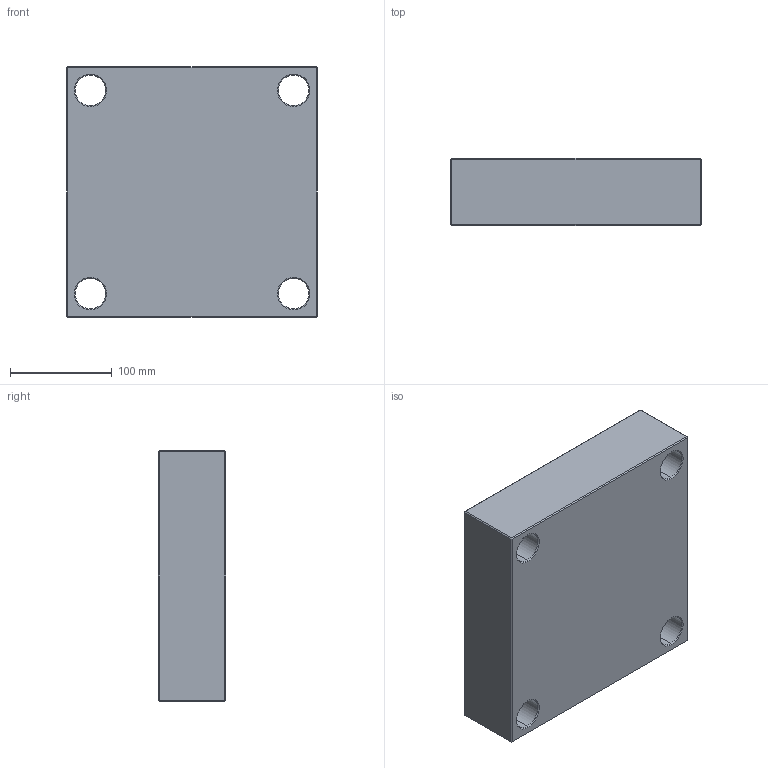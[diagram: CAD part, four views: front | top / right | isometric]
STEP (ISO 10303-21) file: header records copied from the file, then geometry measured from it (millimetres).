
FILE_DESCRIPTION (( 'STEP AP214' ), '1' );
FILE_NAME ('PC-246x246x66.STEP', '2020-04-21T16:07:52', ( 'August' ), ( '' ), 'SwSTEP 2.0', 'SolidWorks 2018', '' );
FILE_SCHEMA (( 'AUTOMOTIVE_DESIGN' ));
Length unit declared in the file: millimetre
Products named in the file (1): PC-246x246x66
Bounding box: 246 x 66 x 246 mm (x, y, z)
Volume: 3787137.1 mm3; surface area: 207427.6 mm2
Topology: 1 solids, 1 shells, 82 faces, 168 edges, 96 vertices
Faces by surface type: plane 34, cone 24, cylinder 24
Entity records: 2170 total; most frequent: DIRECTION 406, CARTESIAN_POINT 347, ORIENTED_EDGE 336, EDGE_CURVE 168, AXIS2_PLACEMENT_3D 155, EDGE_LOOP 98, VECTOR 96, LINE 96
